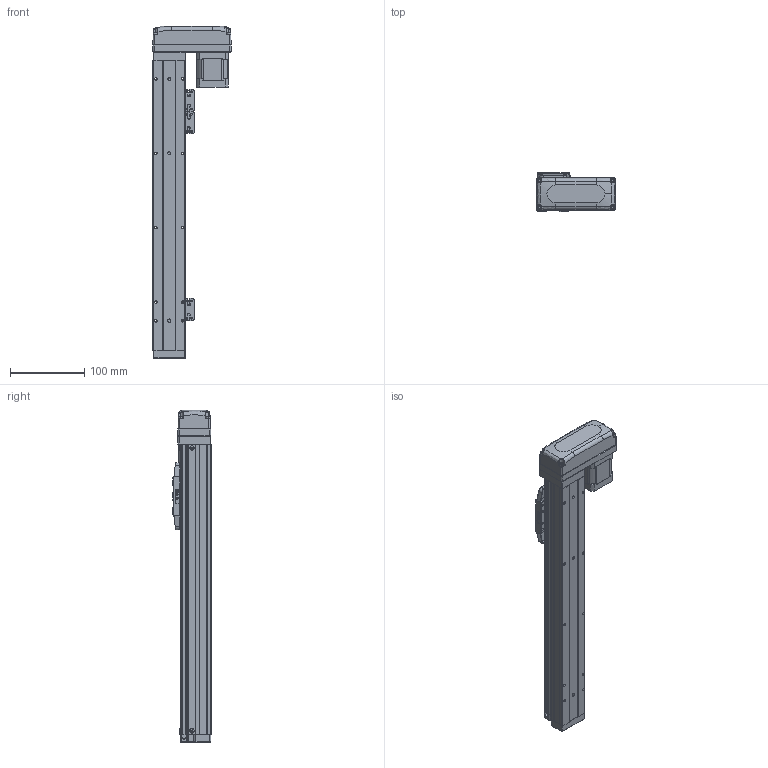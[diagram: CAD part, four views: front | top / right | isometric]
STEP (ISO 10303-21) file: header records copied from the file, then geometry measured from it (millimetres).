
FILE_DESCRIPTION (( 'STEP AP203' ), '1' );
FILE_NAME ('GTH4-250-BL-B42-C4.step', '2023-02-14T00:18:01', ( '微软用户' ), ( '微软中国' ), 'SwSTEP 2.0', 'SolidWorks 2020', '' );
FILE_SCHEMA (( 'CONFIG_CONTROL_DESIGN' ));
Length unit declared in the file: millimetre
Products named in the file (19): BTH40-001-50_BTH40-001-250; BTH50-024; GBT 70.3-M3℅6; BTH40-003; GBT 70.1-M3℅6; BTH40-027-1; BTH40-006; GBT96.1-2002 3×0.8; BTH50-026; BTH-M3X5X6; BTH40-022; 42CM06; GBT70.1-2000 M3×16; GBT 70.1-M2.5×6; GTH4-250-BL-B42-C4; BTH50-028; BTH40-004; BTH50-023; BTH40-013
Assembly tree (47 placements, depth 2):
  GTH4-250-BL-B42-C4
    BTH40-001-50_BTH40-001-250
    BTH40-003
    BTH40-006
    BTH-M3X5X6  x8
    GBT70.1-2000 M3×16  x4
    BTH50-028  x2
    BTH50-023  x3
    BTH50-024  x3
    GBT 70.1-M3℅6  x6
    GBT96.1-2002 3×0.8  x6
    BTH40-022
    GBT 70.1-M2.5×6  x2
    BTH40-004
    BTH40-013
    GBT 70.3-M3℅6  x4
    BTH40-027-1
    BTH50-026
    42CM06
Bounding box: 105 x 52 x 446 mm (x, y, z)
Volume: 856145.2 mm3; surface area: 188620.8 mm2
Topology: 56 solids, 56 shells, 3311 faces, 7720 edges, 4618 vertices
Faces by surface type: cone 1488, plane 1076, cylinder 569, torus 124, bspline 42, sphere 12
Entity records: 77242 total; most frequent: CARTESIAN_POINT 13937, DIRECTION 13717, ORIENTED_EDGE 12086, EDGE_CURVE 6043, AXIS2_PLACEMENT_3D 5261, VERTEX_POINT 3605, LINE 3195, VECTOR 3195
